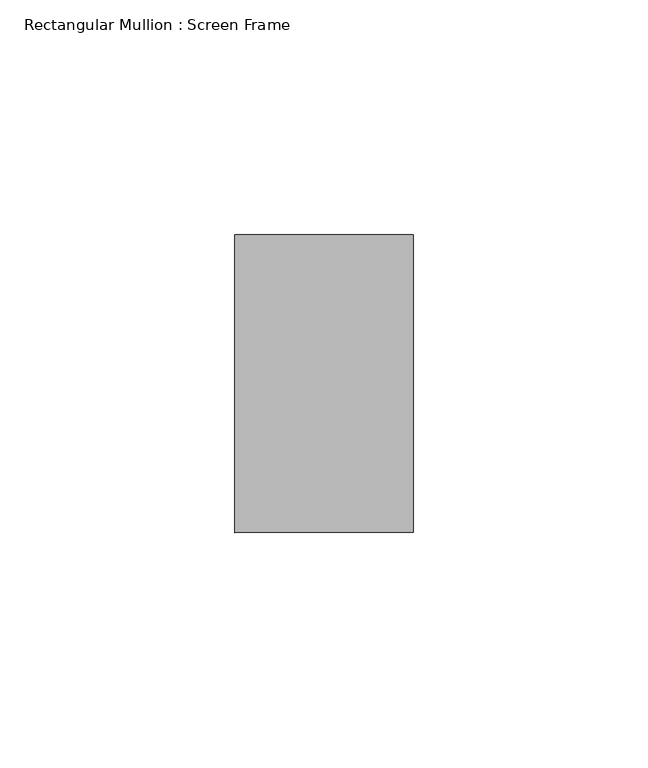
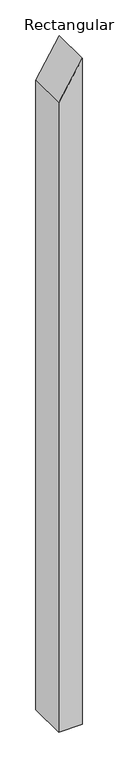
"""IFC4 building model written with IfcOpenShell, lengths in millimetres: member geometry, Rectangular Mullion : Screen Frame."""

from ifc_helpers import new_model, si_unit, frame, origin, place, context, project, spatial, polyline, outline, extrude, source, transform, mapped, element, save


def rectangular_mullion_screen_frame_2119ea84(model_context):
    return source(origin(), model_context, "Body", "SweptSolid", [
        extrude(outline(polyline([(0.0, 0.0), (-62.106626, -38.1), (-1135.1676867, -38.1), (-1135.1676867, 0.0), (0.0, 0.0)])), frame((0.0, -31.75, 0.0), z_axis=(0.0, 1.0, 0.0), x_axis=(0.0, 0.0, 1.0)), (0.0, 0.0, 1.0), 63.5),
    ])


if __name__ == "__main__":
    model = new_model("IFC4")
    model_context = context("Model", 3, world=origin())
    ifc_project = project(units=[si_unit("LENGTHUNIT", "METRE", prefix="MILLI")], contexts=[model_context])
    site = spatial("IfcSite", under=ifc_project)
    building = spatial("IfcBuilding", under=site)
    placement = place(None, origin())
    rectangular_mullion_screen_frame_shape = rectangular_mullion_screen_frame_2119ea84(model_context)
    element("IfcMember", 1, ObjectType="Rectangular Mullion : Screen Frame", at=placement, inside=building, context=model_context, shape_type="MappedRepresentation", body=[
        mapped(rectangular_mullion_screen_frame_shape, transform((0.0, 0.0, 0.0), x_axis=(1.0, 0.0, 0.0), y_axis=(0.0, 1.0, 0.0), z_axis=(0.0, 0.0, 1.0))),
    ])
    save(model, "model.ifc")
